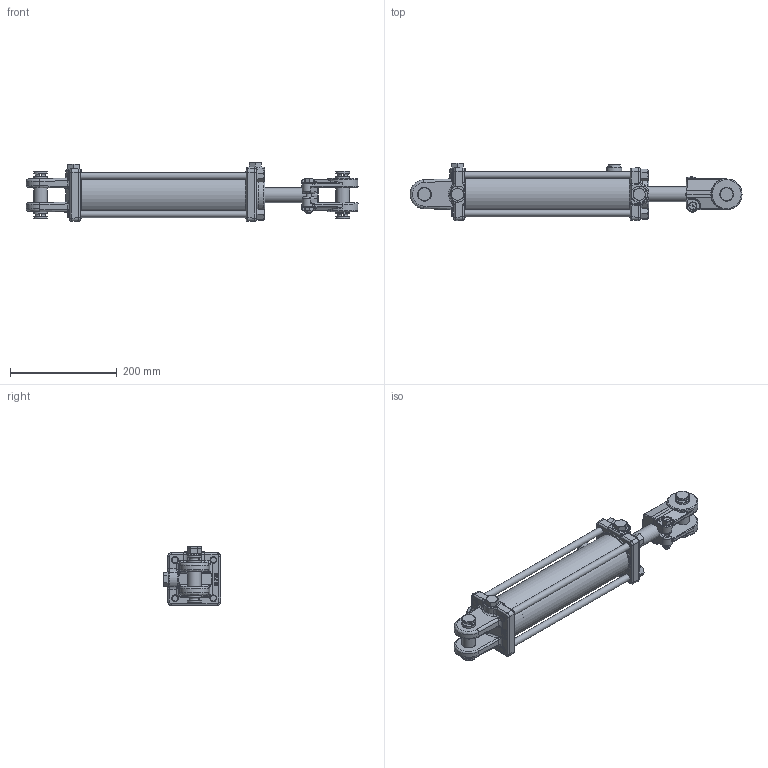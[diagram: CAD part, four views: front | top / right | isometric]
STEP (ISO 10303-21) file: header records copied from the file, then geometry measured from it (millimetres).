
FILE_DESCRIPTION((''),'2;1');
FILE_NAME('\\Srvr-eng\engsales\PMS-AM-2627SP.stp','2010-12-29T14:29:18',('kneifld'),(''),'Autodesk Inventor 2010','Autodesk Inventor 2010','');
FILE_SCHEMA(('AUTOMOTIVE_DESIGN { 1 0 10303 214 1 1 1 1 }'));
Length unit declared in the file: inch
Products named in the file (28): PMS-AM-2627SP; 0614000052; 051400056; 200300181V; 141400002V; 010500430; 100000423; 100000422; 170002104; 220000203; 071400052V; 220000208V; 190400001V; 240011115V; 240064300V; 240000024V; 240061230V; 240000230V; 081400015V; 081400014V; 210500088V; 250014112V; 240020183V; 170201123AV; 170201143; 220000105V; 200300040V; 200300104V
Assembly tree (35 placements, depth 3):
  PMS-AM-2627SP
    0614000052
      051400056
      200300181V
    141400002V
    010500430
    100000423
      100000422
      170002104
      220000203
    071400052V
    220000208V
    190400001V  x2
    240011115V
    240064300V
    240000024V
    240061230V  x2
    240000230V  x2
    081400015V
      081400014V
      210500088V
    250014112V
    240020183V
    170201123AV  x4
      170201143
      220000105V
    200300040V  x3
    200300104V
Bounding box: 620.66 x 106.98 x 110.29 mm (x, y, z)
Volume: 1751144.7 mm3; surface area: 466600.9 mm2
Topology: 34 solids, 34 shells, 1160 faces, 2730 edges, 1652 vertices
Faces by surface type: bspline 375, plane 340, cylinder 243, cone 160, torus 27, sphere 15
Full cylindrical faces by diameter (mm): 1.575 x1, 2.769 x1, 5.159 x4, 9.493 x1, 10.319 x2, 12.7 x4, 16.764 x3, 18.999 x1, 19.05 x4, 19.126 x1, 22.352 x1, 25.4 x6, 25.781 x4, 28.55 x2, 28.575 x2, 28.727 x1, 29.527 x1, 30.201 x1, 31.013 x1, 31.75 x1, 32.532 x1, 32.544 x1, 33.325 x1, 34.773 x1, 35.789 x1, 37.148 x1, 37.313 x1, 37.998 x1, 41.275 x1, 41.377 x1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
Entity records: 48076 total; most frequent: CARTESIAN_POINT 26436, ORIENTED_EDGE 4364, DIRECTION 3773, EDGE_CURVE 2182, AXIS2_PLACEMENT_3D 1509, VERTEX_POINT 1417, EDGE_LOOP 1259, FACE_OUTER_BOUND 1000
